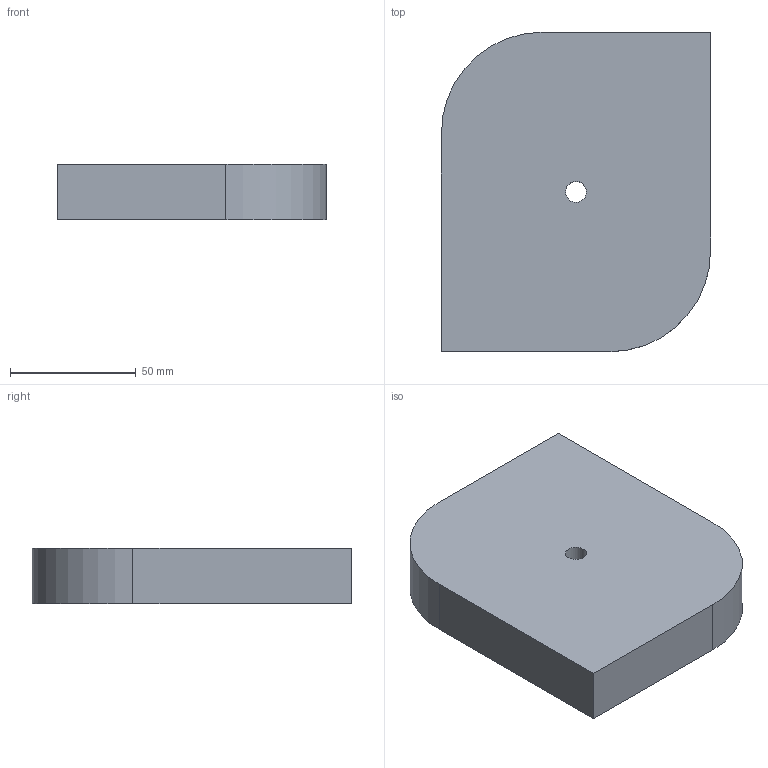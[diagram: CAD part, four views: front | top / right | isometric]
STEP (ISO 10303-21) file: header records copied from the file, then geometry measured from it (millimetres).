
FILE_DESCRIPTION(('CATIA V5 STEP Exchange'),'2;1');
FILE_NAME('C:\_Andres\UNIVERSIDAD\IQS\ASIGNATURAS\DAO\EXF\EXF-15161c\1original\Pañella_Caminero_Ej01-plano_v17.stp','2016-03-04T14:59:45+00:00',('none'),('none'),'CATIA Version 5 Release 20 SP 1 (IN-10)','CATIA V5 STEP AP203','none');
FILE_SCHEMA(('CONFIG_CONTROL_DESIGN'));
Length unit declared in the file: millimetre
Products named in the file (1): Pañella_Caminero_Ej01-plano_v17
Bounding box: 107 x 127 x 22 mm (x, y, z)
Volume: 282637.8 mm3; surface area: 35813.9 mm2
Topology: 1 solids, 1 shells, 10 faces, 24 edges, 16 vertices
Faces by surface type: plane 6, cylinder 4
Entity records: 333 total; most frequent: CARTESIAN_POINT 51, ORIENTED_EDGE 48, DIRECTION 44, EDGE_CURVE 24, AXIS2_PLACEMENT_3D 19, VECTOR 16, LINE 16, VERTEX_POINT 16
